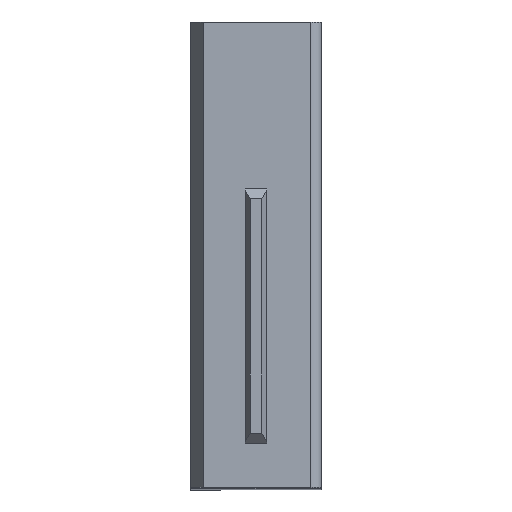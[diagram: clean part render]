
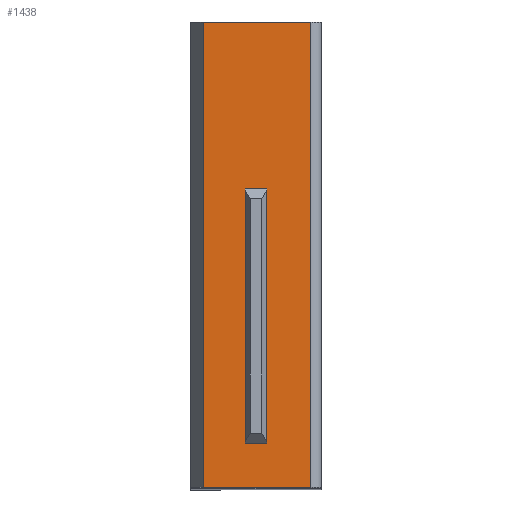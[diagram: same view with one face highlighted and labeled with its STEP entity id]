
A CAD part, top view. The second image highlights one B-rep face of the part: STEP entity #1438.
In plain terms, the highlighted planar face has unit normal (0, 0, 1).
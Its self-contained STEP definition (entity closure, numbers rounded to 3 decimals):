
#16 = CARTESIAN_POINT ( 'NONE',  ( 0., 0., 0. ) ) ;
#29 = VERTEX_POINT ( 'NONE', #1541 ) ;
#32 = ORIENTED_EDGE ( 'NONE', *, *, #483, .T. ) ;
#127 = ORIENTED_EDGE ( 'NONE', *, *, #817, .T. ) ;
#128 = LINE ( 'NONE', #1086, #1223 ) ;
#142 = CARTESIAN_POINT ( 'NONE',  ( -3.043, 0., 0. ) ) ;
#214 = CARTESIAN_POINT ( 'NONE',  ( 4.74, 33.75, 0. ) ) ;
#240 = VECTOR ( 'NONE', #1109, 1000. ) ;
#267 = ORIENTED_EDGE ( 'NONE', *, *, #509, .T. ) ;
#305 = LINE ( 'NONE', #646, #240 ) ;
#483 = EDGE_CURVE ( 'NONE', #1585, #29, #128, .T. ) ;
#509 = EDGE_CURVE ( 'NONE', #1769, #2001, #1228, .T. ) ;
#623 = PLANE ( 'NONE',  #1266 ) ;
#646 = CARTESIAN_POINT ( 'NONE',  ( 4.74, 33.75, 0. ) ) ;
#652 = DIRECTION ( 'NONE',  ( 0., 0., -1. ) ) ;
#659 = EDGE_CURVE ( 'NONE', #2001, #1585, #305, .T. ) ;
#707 = CARTESIAN_POINT ( 'NONE',  ( -3.043, 0., 0. ) ) ;
#817 = EDGE_CURVE ( 'NONE', #29, #1769, #1236, .T. ) ;
#872 = ORIENTED_EDGE ( 'NONE', *, *, #659, .T. ) ;
#1019 = VECTOR ( 'NONE', #1215, 1000. ) ;
#1069 = CARTESIAN_POINT ( 'NONE',  ( 4.74, 0., 0. ) ) ;
#1086 = CARTESIAN_POINT ( 'NONE',  ( -3.96, 33.75, 0. ) ) ;
#1109 = DIRECTION ( 'NONE',  ( 0., 1., 0. ) ) ;
#1215 = DIRECTION ( 'NONE',  ( 1., 0., 0. ) ) ;
#1223 = VECTOR ( 'NONE', #1239, 1000. ) ;
#1228 = LINE ( 'NONE', #1680, #1019 ) ;
#1236 = LINE ( 'NONE', #707, #1490 ) ;
#1239 = DIRECTION ( 'NONE',  ( -1., 0., 0. ) ) ;
#1266 = AXIS2_PLACEMENT_3D ( 'NONE', #16, #652, #1276 ) ;
#1276 = DIRECTION ( 'NONE',  ( -1., 0., 0. ) ) ;
#1288 = EDGE_LOOP ( 'NONE', ( #267, #872, #32, #127 ) ) ;
#1353 = DIRECTION ( 'NONE',  ( 0., -1., 0. ) ) ;
#1438 = ADVANCED_FACE ( 'NONE', ( #1461 ), #623, .F. ) ;
#1461 = FACE_OUTER_BOUND ( 'NONE', #1288, .T. ) ;
#1490 = VECTOR ( 'NONE', #1353, 1000. ) ;
#1541 = CARTESIAN_POINT ( 'NONE',  ( -3.043, 33.75, 0. ) ) ;
#1585 = VERTEX_POINT ( 'NONE', #214 ) ;
#1680 = CARTESIAN_POINT ( 'NONE',  ( -3.96, 0., 0. ) ) ;
#1769 = VERTEX_POINT ( 'NONE', #142 ) ;
#2001 = VERTEX_POINT ( 'NONE', #1069 ) ;
